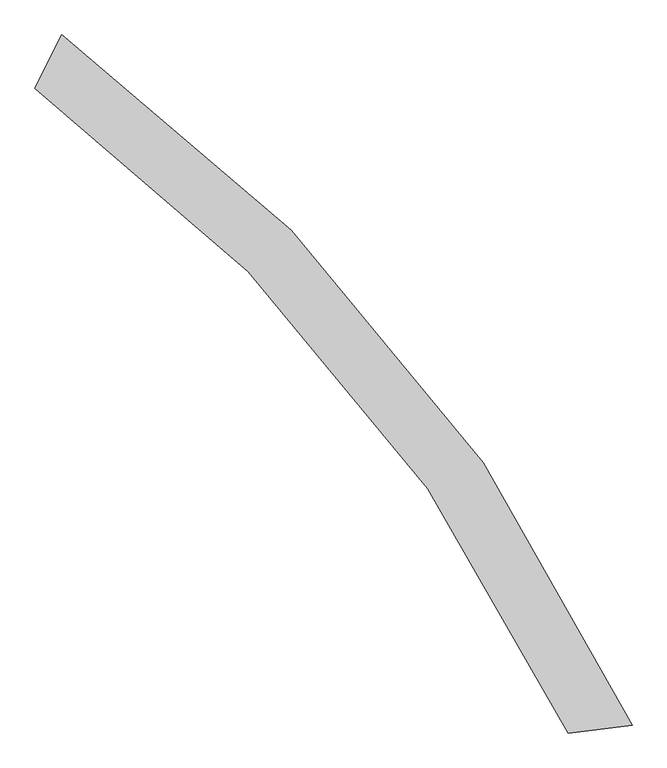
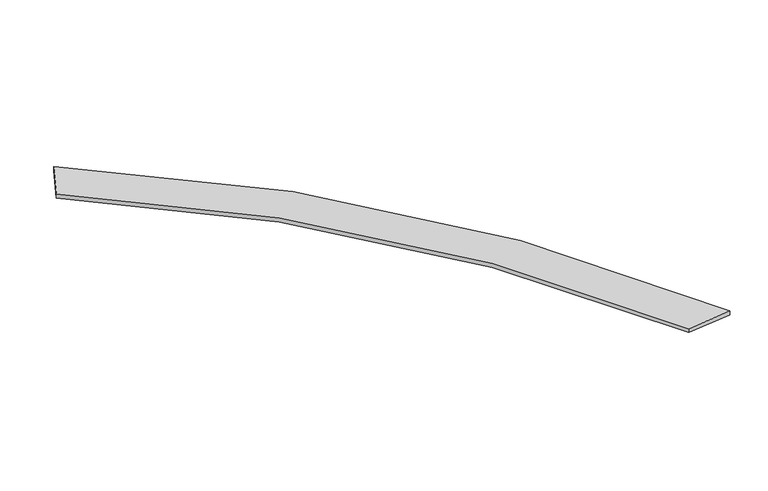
"""IFC4 building model written with IfcOpenShell, lengths in millimetres: furniture geometry, Plan de travail bas : Rangement bar."""

from ifc_helpers import new_model, si_unit, point, frame_2d, origin, origin_with_axes, place, context, project, spatial, polyline, circle_curve, trimmed, segment, composite_curve, outline, extrude, source, transform, mapped, element, save


def furniture_a741e8ee(model_context):
    return source(origin(), model_context, "Body", "SweptSolid", [
        extrude(outline(composite_curve([segment(trimmed(circle_curve(frame_2d((-13551.692817, -6151.5051136)), 14437.1725633), [point((-473.9182009, -35.6435462))], [point((-5088.5244662, 5544.9359301))], True, "CARTESIAN"), True, "CONTINUOUS"), segment(polyline([(-5088.5244662, 5544.9359301), (-4856.9194028, 6004.6741977)]), True, "CONTINUOUS"), segment(trimmed(circle_curve(frame_2d((-13493.3675007, -6154.5663245)), 14914.2671904), [point((-4856.9194028, 6004.6741977))], [point((77.528113, 31.3982784))], False, "CARTESIAN"), True, "CONTINUOUS"), segment(polyline([(77.528113, 31.3982784), (-473.9182009, -35.6435462)]), True, "CONTINUOUS")], self_intersect=False)), origin_with_axes(), (0.0, 0.0, 1.0), 50.0),
    ])


if __name__ == "__main__":
    model = new_model("IFC4")
    model_context = context("Model", 3, world=origin())
    ifc_project = project(units=[si_unit("LENGTHUNIT", "METRE", prefix="MILLI")], contexts=[model_context])
    site = spatial("IfcSite", under=ifc_project)
    building = spatial("IfcBuilding", under=site)
    placement = place(None, origin())
    furniture_shape = furniture_a741e8ee(model_context)
    element("IfcFurniture", 1, ObjectType="Plan de travail bas : Rangement bar", at=placement, inside=building, context=model_context, shape_type="MappedRepresentation", body=[
        mapped(furniture_shape, transform((0.0, 0.0, 0.0), x_axis=(1.0, 0.0, 0.0), y_axis=(0.0, 1.0, 0.0), z_axis=(0.0, 0.0, 1.0))),
    ])
    save(model, "model.ifc")
